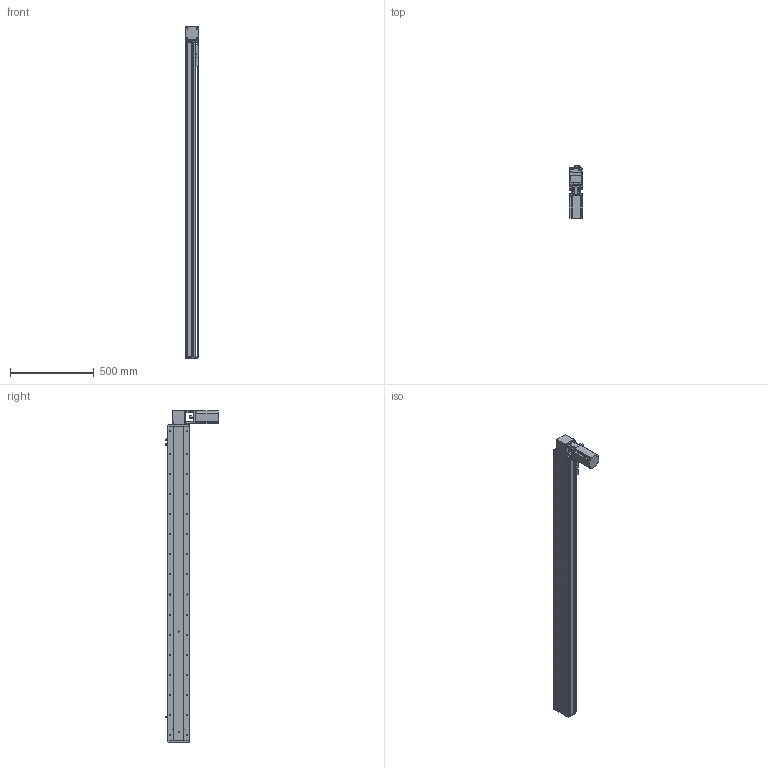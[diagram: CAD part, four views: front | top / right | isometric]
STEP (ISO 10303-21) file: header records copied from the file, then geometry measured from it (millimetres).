
FILE_DESCRIPTION (( 'STEP AP214' ), '1' );
FILE_NAME ('KSD130B-S1650-MRT-CM.STEP', '2019-11-16T05:10:46', ( '微软用户' ), ( '微软中国' ), 'SwSTEP 2.0', 'SolidWorks 2014', '' );
FILE_SCHEMA (( 'AUTOMOTIVE_DESIGN' ));
Length unit declared in the file: millimetre
Products named in the file (12): 130宽盖板半封闭同步带-1650行程; 130宽马达安装板同步带左-改; 130宽马达安装板同步带半封闭; 130宽同步带安装座半封闭; 130宽端盖同步带半封闭; 130宽底板半封闭同步带-1650行程; KSD130B-S1650-MRT-CM; 台达ECMA－C20807AS伺服电机; 130宽马达安装板1-带电机座750W（1）; 覜茼え100遵圉猾敕; U倰嫖萇EEㄜSX672; 130宽安装板同步带带电机座750W
Assembly tree (13 placements, depth 2):
  KSD130B-S1650-MRT-CM
    130宽底板半封闭同步带-1650行程
    130宽端盖同步带半封闭
    130宽同步带安装座半封闭
    130宽马达安装板同步带半封闭
    130宽马达安装板同步带左-改
    130宽盖板半封闭同步带-1650行程
    130宽安装板同步带带电机座750W
    U倰嫖萇EEㄜSX672  x3
    覜茼え100遵圉猾敕
    130宽马达安装板1-带电机座750W（1）
    台达ECMA－C20807AS伺服电机
Bounding box: 81 x 316 x 1983 mm (x, y, z)
Volume: 6717047.2 mm3; surface area: 1850933.3 mm2
Topology: 14 solids, 14 shells, 1687 faces, 4892 edges, 3101 vertices
Faces by surface type: cylinder 833, plane 629, cone 225
Entity records: 57207 total; most frequent: CARTESIAN_POINT 11011, DIRECTION 8630, ORIENTED_EDGE 8332, EDGE_CURVE 4166, AXIS2_PLACEMENT_3D 3192, VERTEX_POINT 2725, VECTOR 2246, LINE 2246
